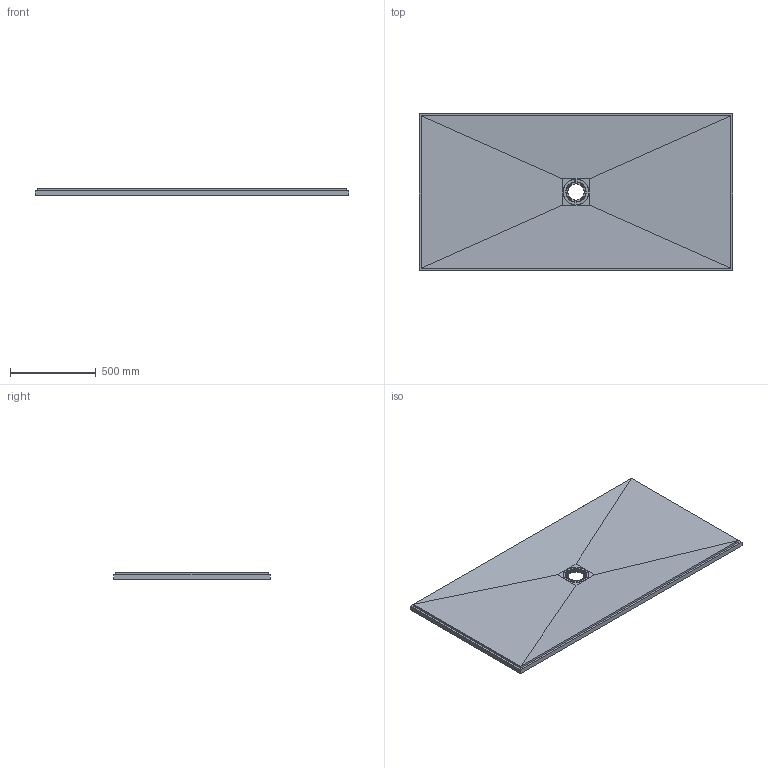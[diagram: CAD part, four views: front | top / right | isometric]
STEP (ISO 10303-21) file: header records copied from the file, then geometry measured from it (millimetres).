
FILE_DESCRIPTION(/* description */ ('Fertigelement'),/* implementation_level */ '2;1');
FILE_NAME(/* name */ 'C:\Users\fuser-vault-job\AppData\Local\Temp\MuM_xcegpcqa.yuq\D-000002016.iam_.step',/* time_stamp */ '2022-07-14T10:23:01+02:00',/* author */ ('ds'),/* organization */ (''),/* preprocessor_version */ 'ST-DEVELOPER v18.1',/* originating_system */ 'Autodesk Inventor 2020',/* authorisation */ '');
FILE_SCHEMA (('AUTOMOTIVE_DESIGN { 1 0 10303 214 3 1 1 }'));
Products named in the file (3): 073740062; 073740062_1; DD0000003
Assembly tree (2 placements, depth 2):
  073740062
    073740062_1
    DD0000003
Bounding box: 1828.8 x 914.4 x 40 mm (x, y, z)
Volume: 55087185.5 mm3; surface area: 3588770.4 mm2
Topology: 2 solids, 2 shells, 743 faces, 2189 edges, 1474 vertices
Faces by surface type: bspline 372, torus 115, cone 78, cylinder 76, plane 68, sphere 34
Full cylindrical faces by diameter (mm): 6 x3, 151 x1
Entity records: 63140 total; most frequent: CARTESIAN_POINT 44892, ORIENTED_EDGE 4322, DIRECTION 3297, EDGE_CURVE 2161, VERTEX_POINT 1456, AXIS2_PLACEMENT_3D 1338, CIRCLE 812, EDGE_LOOP 803
